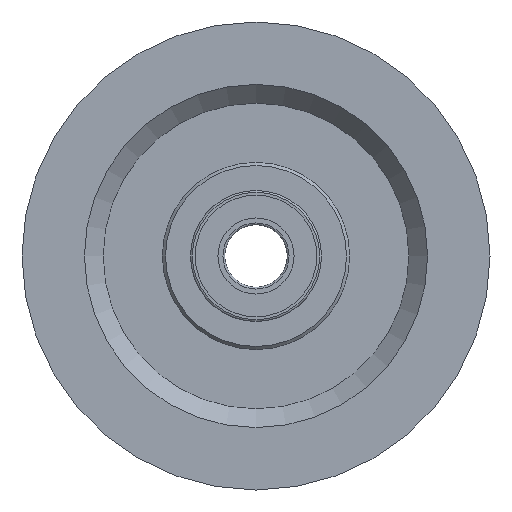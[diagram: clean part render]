
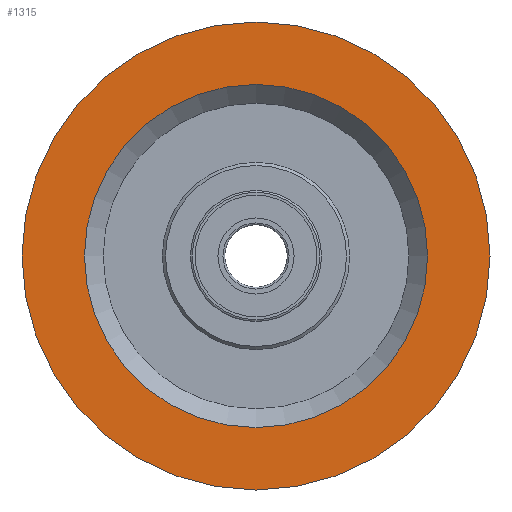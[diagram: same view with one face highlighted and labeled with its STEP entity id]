
A CAD part, left-side view. The second image highlights one B-rep face of the part: STEP entity #1315.
In plain terms, the highlighted planar face has unit normal (-1, 0, 0).
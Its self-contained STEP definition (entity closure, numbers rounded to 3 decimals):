
#210=FACE_BOUND('',#338,.T.);
#260=FACE_OUTER_BOUND('',#337,.T.);
#337=EDGE_LOOP('',(#1006,#1007));
#338=EDGE_LOOP('',(#1008,#1009));
#450=CIRCLE('',#1583,75.);
#451=CIRCLE('',#1584,75.);
#469=CIRCLE('',#1612,55.);
#470=CIRCLE('',#1613,55.);
#579=VERTEX_POINT('',#2298);
#580=VERTEX_POINT('',#2300);
#598=VERTEX_POINT('',#2353);
#599=VERTEX_POINT('',#2355);
#740=EDGE_CURVE('',#579,#580,#450,.T.);
#741=EDGE_CURVE('',#580,#579,#451,.T.);
#766=EDGE_CURVE('',#599,#598,#469,.T.);
#767=EDGE_CURVE('',#598,#599,#470,.T.);
#1006=ORIENTED_EDGE('',*,*,#741,.F.);
#1007=ORIENTED_EDGE('',*,*,#740,.F.);
#1008=ORIENTED_EDGE('',*,*,#766,.T.);
#1009=ORIENTED_EDGE('',*,*,#767,.T.);
#1281=PLANE('',#1614);
#1315=ADVANCED_FACE('',(#260,#210),#1281,.T.);
#1583=AXIS2_PLACEMENT_3D('',#2301,#1847,#1848);
#1584=AXIS2_PLACEMENT_3D('',#2302,#1849,#1850);
#1612=AXIS2_PLACEMENT_3D('',#2356,#1912,#1913);
#1613=AXIS2_PLACEMENT_3D('',#2357,#1914,#1915);
#1614=AXIS2_PLACEMENT_3D('',#2358,#1916,#1917);
#1847=DIRECTION('center_axis',(1.,0.,0.));
#1848=DIRECTION('ref_axis',(0.,0.,-1.));
#1849=DIRECTION('center_axis',(1.,0.,0.));
#1850=DIRECTION('ref_axis',(0.,0.,-1.));
#1912=DIRECTION('center_axis',(1.,0.,0.));
#1913=DIRECTION('ref_axis',(0.,0.,-1.));
#1914=DIRECTION('center_axis',(1.,0.,0.));
#1915=DIRECTION('ref_axis',(0.,0.,-1.));
#1916=DIRECTION('center_axis',(-1.,0.,0.));
#1917=DIRECTION('ref_axis',(0.,0.,1.));
#2298=CARTESIAN_POINT('',(-11.,-75.,0.));
#2300=CARTESIAN_POINT('',(-11.,75.,0.));
#2301=CARTESIAN_POINT('Origin',(-11.,0.,0.));
#2302=CARTESIAN_POINT('Origin',(-11.,0.,0.));
#2353=CARTESIAN_POINT('',(-11.,-55.,0.));
#2355=CARTESIAN_POINT('',(-11.,55.,0.));
#2356=CARTESIAN_POINT('Origin',(-11.,0.,0.));
#2357=CARTESIAN_POINT('Origin',(-11.,0.,0.));
#2358=CARTESIAN_POINT('Origin',(-11.,75.,0.));
